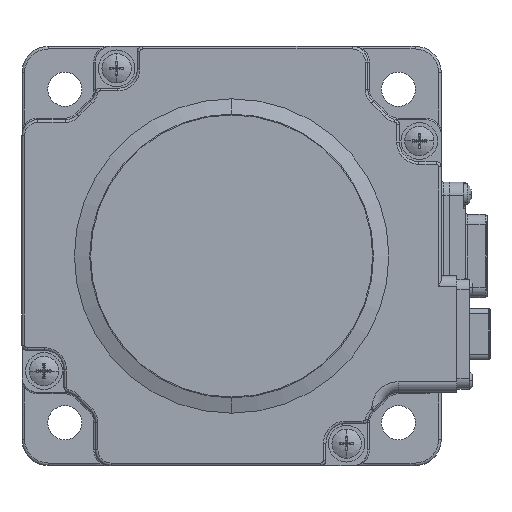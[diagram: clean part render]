
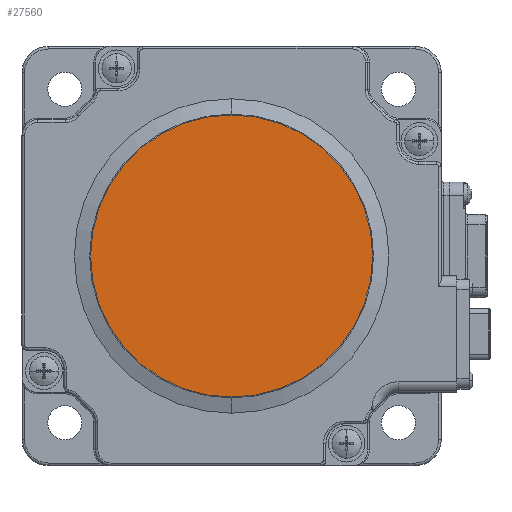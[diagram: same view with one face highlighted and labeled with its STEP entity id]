
A CAD part, left-side view. The second image highlights one B-rep face of the part: STEP entity #27560.
In plain terms, the highlighted planar face has unit normal (-1, 0, 0).
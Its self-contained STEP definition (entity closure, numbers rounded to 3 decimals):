
#22573 = VERTEX_POINT('',#22574);
#22574 = CARTESIAN_POINT('',(-151.328,-32.038,
    -1.723));
#22581 = EDGE_CURVE('',#22582,#22573,#22584,.T.);
#22582 = VERTEX_POINT('',#22583);
#22583 = CARTESIAN_POINT('',(-151.328,-32.038,
    52.114));
#22584 = CIRCLE('',#22585,26.919);
#22585 = AXIS2_PLACEMENT_3D('',#22586,#22587,#22588);
#22586 = CARTESIAN_POINT('',(-151.328,-32.038,
    25.195));
#22587 = DIRECTION('',(-1.,0.,0.));
#22588 = DIRECTION('',(0.,0.,1.));
#27560 = ADVANCED_FACE('',(#27561),#27571,.T.);
#27561 = FACE_BOUND('',#27562,.T.);
#27562 = EDGE_LOOP('',(#27563,#27564));
#27563 = ORIENTED_EDGE('',*,*,#22581,.T.);
#27564 = ORIENTED_EDGE('',*,*,#27565,.T.);
#27565 = EDGE_CURVE('',#22573,#22582,#27566,.T.);
#27566 = CIRCLE('',#27567,26.919);
#27567 = AXIS2_PLACEMENT_3D('',#27568,#27569,#27570);
#27568 = CARTESIAN_POINT('',(-151.328,-32.038,
    25.195));
#27569 = DIRECTION('',(-1.,0.,0.));
#27570 = DIRECTION('',(0.,0.,1.));
#27571 = PLANE('',#27572);
#27572 = AXIS2_PLACEMENT_3D('',#27573,#27574,#27575);
#27573 = CARTESIAN_POINT('',(-151.328,-32.038,
    25.195));
#27574 = DIRECTION('',(-1.,0.,0.));
#27575 = DIRECTION('',(0.,0.,1.));
